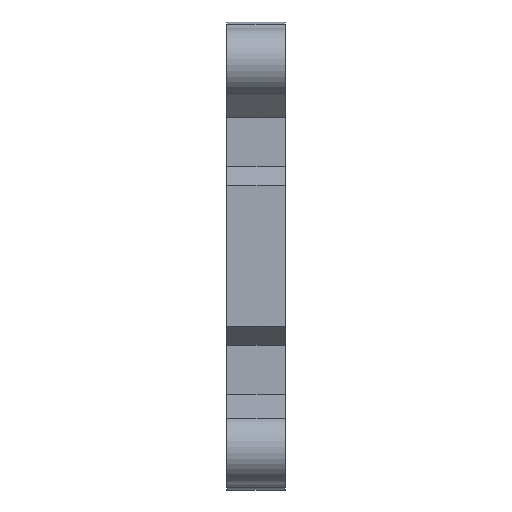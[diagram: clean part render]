
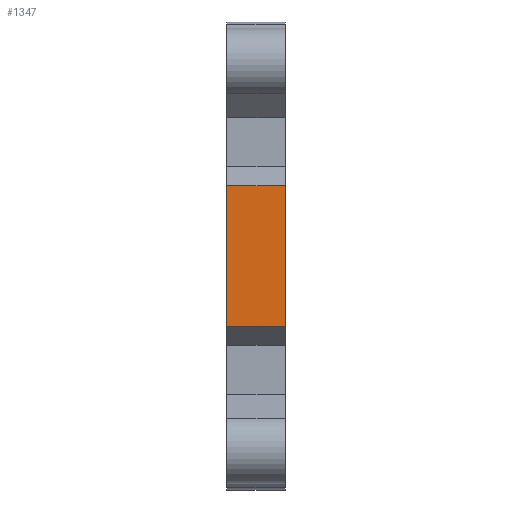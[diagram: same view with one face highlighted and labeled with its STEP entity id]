
A CAD part, left-side view. The second image highlights one B-rep face of the part: STEP entity #1347.
In plain terms, the highlighted planar face has unit normal (-1, 0, 0).
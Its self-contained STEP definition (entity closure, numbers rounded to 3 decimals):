
#71=FACE_OUTER_BOUND('',#153,.T.);
#153=EDGE_LOOP('',(#977,#978,#979,#980));
#310=LINE('',#1989,#456);
#326=LINE('',#2063,#472);
#327=LINE('',#2065,#473);
#328=LINE('',#2066,#474);
#456=VECTOR('',#1576,10.);
#472=VECTOR('',#1638,10.);
#473=VECTOR('',#1639,10.);
#474=VECTOR('',#1640,10.);
#608=VERTEX_POINT('',#1986);
#609=VERTEX_POINT('',#1988);
#644=VERTEX_POINT('',#2062);
#645=VERTEX_POINT('',#2064);
#740=EDGE_CURVE('',#608,#609,#310,.T.);
#777=EDGE_CURVE('',#644,#608,#326,.T.);
#778=EDGE_CURVE('',#645,#644,#327,.T.);
#779=EDGE_CURVE('',#645,#609,#328,.T.);
#977=ORIENTED_EDGE('',*,*,#777,.F.);
#978=ORIENTED_EDGE('',*,*,#778,.F.);
#979=ORIENTED_EDGE('',*,*,#779,.T.);
#980=ORIENTED_EDGE('',*,*,#740,.F.);
#1304=PLANE('',#1444);
#1347=ADVANCED_FACE('',(#71),#1304,.T.);
#1444=AXIS2_PLACEMENT_3D('',#2061,#1636,#1637);
#1576=DIRECTION('',(0.,0.,-1.));
#1636=DIRECTION('center_axis',(-1.,0.,0.));
#1637=DIRECTION('ref_axis',(0.,0.,1.));
#1638=DIRECTION('',(0.,-1.,0.));
#1639=DIRECTION('',(0.,0.,1.));
#1640=DIRECTION('',(0.,-1.,0.));
#1986=CARTESIAN_POINT('',(-77.459,-30.,6.));
#1988=CARTESIAN_POINT('',(-77.459,-30.,-6.));
#1989=CARTESIAN_POINT('',(-77.459,-30.,6.));
#2061=CARTESIAN_POINT('Origin',(-77.459,-27.,-6.));
#2062=CARTESIAN_POINT('',(-77.459,-25.,6.));
#2063=CARTESIAN_POINT('',(-77.459,-27.,6.));
#2064=CARTESIAN_POINT('',(-77.459,-25.,-6.));
#2065=CARTESIAN_POINT('',(-77.459,-25.,6.));
#2066=CARTESIAN_POINT('',(-77.459,-27.,-6.));
